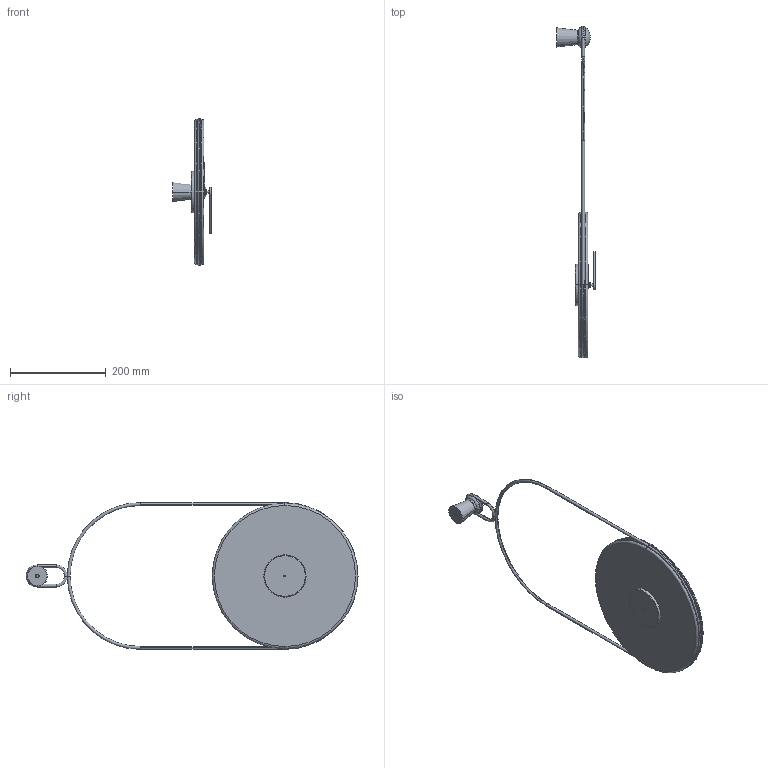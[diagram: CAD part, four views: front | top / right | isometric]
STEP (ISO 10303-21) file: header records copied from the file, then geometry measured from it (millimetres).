
FILE_DESCRIPTION (( 'STEP AP214' ), '1' );
FILE_NAME ('ESLABÓN_MARMOL.STEP', '2019-04-08T10:19:54', ( '' ), ( '' ), 'SwSTEP 2.0', 'SolidWorks 2016', '' );
FILE_SCHEMA (( 'AUTOMOTIVE_DESIGN' ));
Length unit declared in the file: millimetre
Products named in the file (13): Tuerca; Pasante; Arandela_2; ARCO_VARILLA_ÓVALO_PENDIENTE; Prueba_aguja_horaria_latón_oval_2; Prueba_aguja_minutera_nogal_120mm; ESLABÓN_MARMOL; PLATO_MÁRMOL_PLANO; ANCLAJE_TORNEADO_PENDIENTE; Pieza_caja_inferior; Pieza2; Mecanismo; AGUJA_HORARIA_LÁTON_L_oval
Assembly tree (12 placements, depth 3):
  ESLABÓN_MARMOL
    AGUJA_HORARIA_LÁTON_L_oval
      Prueba_aguja_horaria_latón_oval_2
      Arandela_2
      Pasante
      Tuerca
    Mecanismo
    Pieza2
    ARCO_VARILLA_ÓVALO_PENDIENTE
    ANCLAJE_TORNEADO_PENDIENTE
    Pieza_caja_inferior
    Prueba_aguja_minutera_nogal_120mm
    PLATO_MÁRMOL_PLANO
Bounding box: 79.73 x 692 x 306 mm (x, y, z)
Volume: 1483713.2 mm3; surface area: 252380.3 mm2
Topology: 12 solids, 12 shells, 199 faces, 430 edges, 265 vertices
Faces by surface type: cylinder 78, torus 58, plane 53, cone 8, sphere 2
Entity records: 6106 total; most frequent: DIRECTION 1144, CARTESIAN_POINT 910, ORIENTED_EDGE 860, AXIS2_PLACEMENT_3D 499, EDGE_CURVE 430, CIRCLE 284, VERTEX_POINT 265, EDGE_LOOP 231
